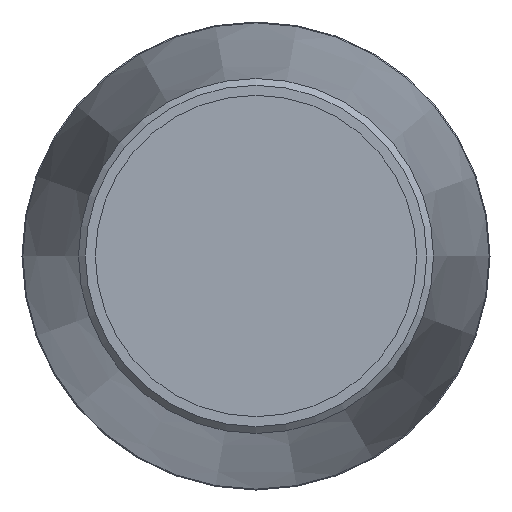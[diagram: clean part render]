
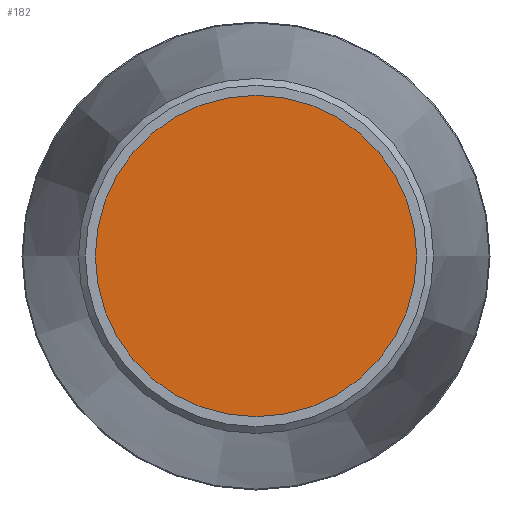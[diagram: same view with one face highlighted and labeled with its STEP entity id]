
A CAD part, left-side view. The second image highlights one B-rep face of the part: STEP entity #182.
In plain terms, the highlighted planar face has unit normal (-1, 0, 0).
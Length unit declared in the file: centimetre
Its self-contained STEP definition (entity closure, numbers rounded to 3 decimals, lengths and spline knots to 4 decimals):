
#20=PLANE('',#211);
#45=FACE_OUTER_BOUND('',#70,.T.);
#70=EDGE_LOOP('',(#140));
#88=CIRCLE('',#210,5.15);
#102=VERTEX_POINT('',#311);
#116=EDGE_CURVE('',#102,#102,#88,.T.);
#140=ORIENTED_EDGE('',*,*,#116,.T.);
#182=ADVANCED_FACE('',(#45),#20,.T.);
#210=AXIS2_PLACEMENT_3D('',#312,#263,#264);
#211=AXIS2_PLACEMENT_3D('',#313,#265,#266);
#263=DIRECTION('center_axis',(-1.,0.,0.));
#264=DIRECTION('ref_axis',(0.,0.,1.));
#265=DIRECTION('center_axis',(-1.,0.,0.));
#266=DIRECTION('ref_axis',(0.,0.,1.));
#311=CARTESIAN_POINT('',(-30.6,-5.15,0.));
#312=CARTESIAN_POINT('Origin',(-30.6,0.,0.));
#313=CARTESIAN_POINT('Origin',(-30.6,0.,0.));
